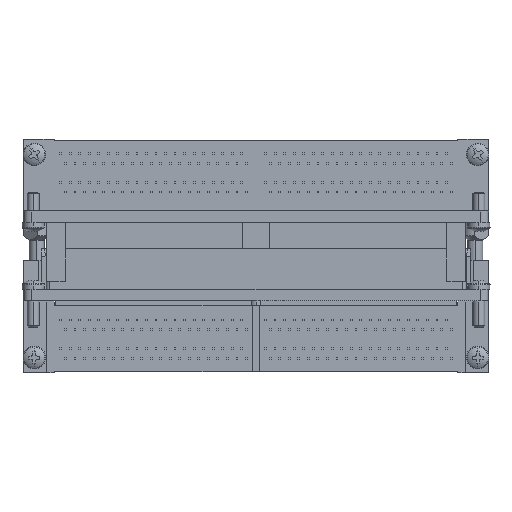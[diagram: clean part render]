
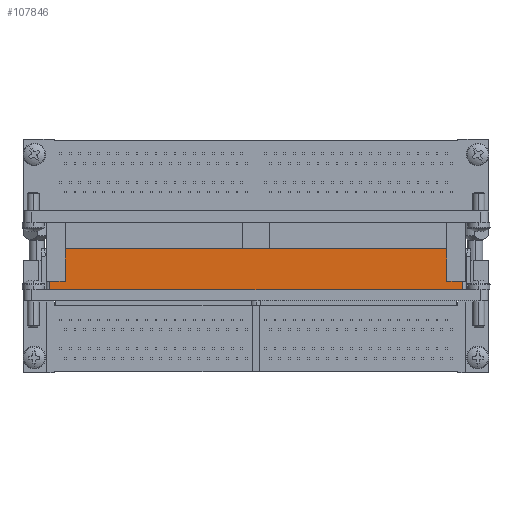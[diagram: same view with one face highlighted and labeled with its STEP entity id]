
A CAD part, front view. The second image highlights one B-rep face of the part: STEP entity #107846.
In plain terms, the highlighted planar face has unit normal (0, -1, 0).
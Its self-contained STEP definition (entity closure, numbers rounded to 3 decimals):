
#1661 = PLANE ( 'NONE',  #103429 ) ;
#1672 = CARTESIAN_POINT ( 'NONE',  ( 31., -4.95, -5.71 ) ) ;
#1673 = DIRECTION ( 'NONE',  ( 0., 1., 0. ) ) ;
#1675 = DIRECTION ( 'NONE',  ( 0., 0., 1. ) ) ;
#11471 = ORIENTED_EDGE ( 'NONE', *, *, #124607, .F. ) ;
#11472 = ORIENTED_EDGE ( 'NONE', *, *, #124608, .F. ) ;
#11473 = ORIENTED_EDGE ( 'NONE', *, *, #124609, .F. ) ;
#11476 = ORIENTED_EDGE ( 'NONE', *, *, #124605, .T. ) ;
#11488 = ORIENTED_EDGE ( 'NONE', *, *, #124606, .F. ) ;
#11549 = ORIENTED_EDGE ( 'NONE', *, *, #124602, .T. ) ;
#11552 = ORIENTED_EDGE ( 'NONE', *, *, #124603, .F. ) ;
#11554 = ORIENTED_EDGE ( 'NONE', *, *, #124604, .T. ) ;
#13333 = CARTESIAN_POINT ( 'NONE',  ( 27.5, -4.95, -4.61 ) ) ;
#13340 = CARTESIAN_POINT ( 'NONE',  ( 25.45, -4.95, -4.61 ) ) ;
#13347 = CARTESIAN_POINT ( 'NONE',  ( 27.5, -4.95, -5.71 ) ) ;
#13352 = CARTESIAN_POINT ( 'NONE',  ( -25.45, -4.95, -4.61 ) ) ;
#13355 = CARTESIAN_POINT ( 'NONE',  ( -27.5, -4.95, -4.61 ) ) ;
#13356 = CARTESIAN_POINT ( 'NONE',  ( -27.5, -4.95, -5.71 ) ) ;
#13358 = CARTESIAN_POINT ( 'NONE',  ( -25.45, -4.95, -0.25 ) ) ;
#13359 = CARTESIAN_POINT ( 'NONE',  ( 25.45, -4.95, -0.25 ) ) ;
#26926 = LINE ( 'NONE', #29378, #26970 ) ;
#26962 = LINE ( 'NONE', #29416, #26967 ) ;
#26967 = VECTOR ( 'NONE', #29417, 1000. ) ;
#26968 = LINE ( 'NONE', #29419, #26973 ) ;
#26970 = VECTOR ( 'NONE', #29418, 1000. ) ;
#26971 = LINE ( 'NONE', #29421, #26977 ) ;
#26973 = VECTOR ( 'NONE', #29420, 1000. ) ;
#26975 = LINE ( 'NONE', #29423, #26980 ) ;
#26977 = VECTOR ( 'NONE', #29422, 1000. ) ;
#26978 = LINE ( 'NONE', #29425, #26984 ) ;
#26980 = VECTOR ( 'NONE', #29424, 1000. ) ;
#26982 = LINE ( 'NONE', #29427, #26988 ) ;
#26984 = VECTOR ( 'NONE', #29426, 1000. ) ;
#26986 = LINE ( 'NONE', #29429, #26993 ) ;
#26988 = VECTOR ( 'NONE', #29428, 1000. ) ;
#26993 = VECTOR ( 'NONE', #29430, 1000. ) ;
#29378 = CARTESIAN_POINT ( 'NONE',  ( 25.45, -4.95, -4.61 ) ) ;
#29416 = CARTESIAN_POINT ( 'NONE',  ( 27.5, -4.95, -6.417 ) ) ;
#29417 = DIRECTION ( 'NONE',  ( 0., 0., 1. ) ) ;
#29418 = DIRECTION ( 'NONE',  ( 1., 0., 0. ) ) ;
#29419 = CARTESIAN_POINT ( 'NONE',  ( 25.45, -4.95, -7.062 ) ) ;
#29420 = DIRECTION ( 'NONE',  ( 0., 0., 1. ) ) ;
#29421 = CARTESIAN_POINT ( 'NONE',  ( 31., -4.95, -0.25 ) ) ;
#29422 = DIRECTION ( 'NONE',  ( -1., 0., 0. ) ) ;
#29423 = CARTESIAN_POINT ( 'NONE',  ( -25.45, -4.95, -7.062 ) ) ;
#29424 = DIRECTION ( 'NONE',  ( 0., 0., 1. ) ) ;
#29425 = CARTESIAN_POINT ( 'NONE',  ( -27.9, -4.95, -4.61 ) ) ;
#29426 = DIRECTION ( 'NONE',  ( 1., 0., 0. ) ) ;
#29427 = CARTESIAN_POINT ( 'NONE',  ( -27.5, -4.95, -6.417 ) ) ;
#29428 = DIRECTION ( 'NONE',  ( 0., 0., 1. ) ) ;
#29429 = CARTESIAN_POINT ( 'NONE',  ( 31., -4.95, -5.71 ) ) ;
#29430 = DIRECTION ( 'NONE',  ( -1., 0., 0. ) ) ;
#103429 = AXIS2_PLACEMENT_3D ( 'NONE', #1672, #1673, #1675 ) ;
#107846 = ADVANCED_FACE ( 'NONE', ( #121805 ), #1661, .F. ) ;
#110989 = VERTEX_POINT ( 'NONE', #13333 ) ;
#110995 = VERTEX_POINT ( 'NONE', #13340 ) ;
#111015 = VERTEX_POINT ( 'NONE', #13347 ) ;
#111019 = VERTEX_POINT ( 'NONE', #13352 ) ;
#111025 = VERTEX_POINT ( 'NONE', #13355 ) ;
#111027 = VERTEX_POINT ( 'NONE', #13356 ) ;
#111031 = VERTEX_POINT ( 'NONE', #13358 ) ;
#111033 = VERTEX_POINT ( 'NONE', #13359 ) ;
#120929 = EDGE_LOOP ( 'NONE', ( #11549, #11552, #11554, #11476, #11488, #11471, #11472, #11473 ) ) ;
#121805 = FACE_OUTER_BOUND ( 'NONE', #120929, .T. ) ;
#124602 = EDGE_CURVE ( 'NONE', #111015, #110989, #26962, .T. ) ;
#124603 = EDGE_CURVE ( 'NONE', #110995, #110989, #26926, .T. ) ;
#124604 = EDGE_CURVE ( 'NONE', #110995, #111033, #26968, .T. ) ;
#124605 = EDGE_CURVE ( 'NONE', #111033, #111031, #26971, .T. ) ;
#124606 = EDGE_CURVE ( 'NONE', #111019, #111031, #26975, .T. ) ;
#124607 = EDGE_CURVE ( 'NONE', #111025, #111019, #26978, .T. ) ;
#124608 = EDGE_CURVE ( 'NONE', #111027, #111025, #26982, .T. ) ;
#124609 = EDGE_CURVE ( 'NONE', #111015, #111027, #26986, .T. ) ;
